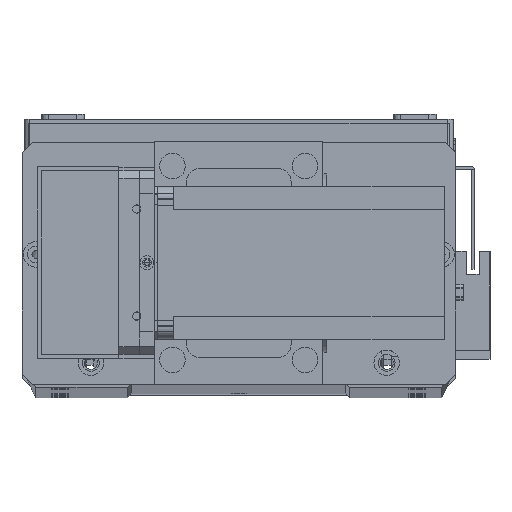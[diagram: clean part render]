
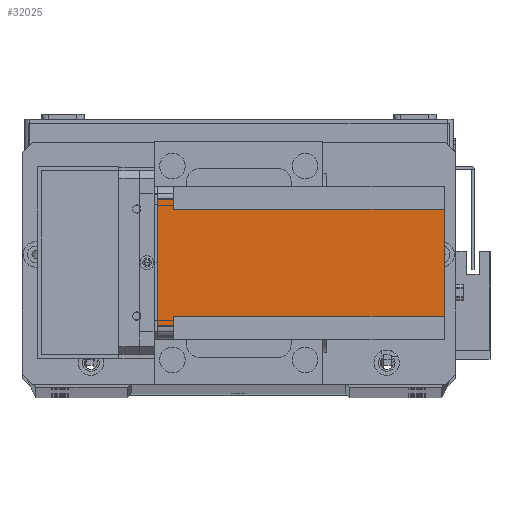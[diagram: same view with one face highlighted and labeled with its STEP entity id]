
A CAD part, top view. The second image highlights one B-rep face of the part: STEP entity #32025.
In plain terms, the highlighted planar face has unit normal (0, 0, 1) as drawn and (-1, 0, 0) by its records, which use the part's own axes.
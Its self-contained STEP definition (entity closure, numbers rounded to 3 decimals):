
#642 = CARTESIAN_POINT ( 'NONE',  ( 0., 60., -6.5 ) ) ;
#1334 = VERTEX_POINT ( 'NONE', #12971 ) ;
#1818 = PLANE ( 'NONE',  #24522 ) ;
#2005 = EDGE_CURVE ( 'NONE', #10046, #20925, #12604, .T. ) ;
#2357 = CARTESIAN_POINT ( 'NONE',  ( 0., 55., -6.5 ) ) ;
#2707 = EDGE_CURVE ( 'NONE', #12142, #10046, #28305, .T. ) ;
#2818 = VERTEX_POINT ( 'NONE', #22398 ) ;
#3104 = VECTOR ( 'NONE', #32806, 1000. ) ;
#4364 = CARTESIAN_POINT ( 'NONE',  ( 0., 55., -112.5 ) ) ;
#4415 = VECTOR ( 'NONE', #4606, 1000. ) ;
#4606 = DIRECTION ( 'NONE',  ( 0., -1., 0. ) ) ;
#5155 = VERTEX_POINT ( 'NONE', #12954 ) ;
#6198 = EDGE_CURVE ( 'NONE', #5155, #19386, #27165, .T. ) ;
#6306 = DIRECTION ( 'NONE',  ( 0., 0., 1. ) ) ;
#6508 = EDGE_CURVE ( 'NONE', #24752, #2818, #25123, .T. ) ;
#7043 = CARTESIAN_POINT ( 'NONE',  ( 0., 0., -112.5 ) ) ;
#7165 = DIRECTION ( 'NONE',  ( 0., -1., 0. ) ) ;
#7318 = VECTOR ( 'NONE', #21678, 1000. ) ;
#7853 = LINE ( 'NONE', #31100, #14740 ) ;
#8302 = EDGE_CURVE ( 'NONE', #24752, #20925, #25416, .T. ) ;
#10046 = VERTEX_POINT ( 'NONE', #30883 ) ;
#10194 = DIRECTION ( 'NONE',  ( 0., 0., 1. ) ) ;
#11651 = EDGE_LOOP ( 'NONE', ( #29471, #23669, #32684, #16178, #17214, #20572, #19914, #18413 ) ) ;
#12142 = VERTEX_POINT ( 'NONE', #31496 ) ;
#12604 = LINE ( 'NONE', #642, #32412 ) ;
#12954 = CARTESIAN_POINT ( 'NONE',  ( 0., 9., -6.5 ) ) ;
#12971 = CARTESIAN_POINT ( 'NONE',  ( 0., 5., -6.5 ) ) ;
#13052 = DIRECTION ( 'NONE',  ( 0., -1., 0. ) ) ;
#13073 = FACE_OUTER_BOUND ( 'NONE', #11651, .T. ) ;
#14010 = CARTESIAN_POINT ( 'NONE',  ( 0., 51., -112.5 ) ) ;
#14295 = CARTESIAN_POINT ( 'NONE',  ( 0., 9., -112.5 ) ) ;
#14740 = VECTOR ( 'NONE', #13052, 1000. ) ;
#15099 = CARTESIAN_POINT ( 'NONE',  ( 0., 0., 0. ) ) ;
#16178 = ORIENTED_EDGE ( 'NONE', *, *, #8302, .T. ) ;
#17214 = ORIENTED_EDGE ( 'NONE', *, *, #2005, .F. ) ;
#17679 = EDGE_CURVE ( 'NONE', #12142, #19386, #7853, .T. ) ;
#17988 = LINE ( 'NONE', #26650, #23245 ) ;
#18413 = ORIENTED_EDGE ( 'NONE', *, *, #6198, .F. ) ;
#19386 = VERTEX_POINT ( 'NONE', #14295 ) ;
#19637 = EDGE_CURVE ( 'NONE', #1334, #2818, #29996, .T. ) ;
#19914 = ORIENTED_EDGE ( 'NONE', *, *, #17679, .T. ) ;
#20572 = ORIENTED_EDGE ( 'NONE', *, *, #2707, .F. ) ;
#20654 = VECTOR ( 'NONE', #6306, 1000. ) ;
#20925 = VERTEX_POINT ( 'NONE', #2357 ) ;
#21678 = DIRECTION ( 'NONE',  ( 0., 0., -1. ) ) ;
#22398 = CARTESIAN_POINT ( 'NONE',  ( 0., 5., 0. ) ) ;
#22708 = DIRECTION ( 'NONE',  ( -1., 0., 0. ) ) ;
#23245 = VECTOR ( 'NONE', #23965, 1000. ) ;
#23669 = ORIENTED_EDGE ( 'NONE', *, *, #19637, .T. ) ;
#23965 = DIRECTION ( 'NONE',  ( 0., 1., 0. ) ) ;
#24522 = AXIS2_PLACEMENT_3D ( 'NONE', #7043, #22708, #7165 ) ;
#24752 = VERTEX_POINT ( 'NONE', #28234 ) ;
#25123 = LINE ( 'NONE', #15099, #4415 ) ;
#25416 = LINE ( 'NONE', #4364, #3104 ) ;
#26466 = DIRECTION ( 'NONE',  ( 0., 1., 0. ) ) ;
#26650 = CARTESIAN_POINT ( 'NONE',  ( 0., 0., -6.5 ) ) ;
#26758 = CARTESIAN_POINT ( 'NONE',  ( 0., 9., -112.5 ) ) ;
#27165 = LINE ( 'NONE', #26758, #7318 ) ;
#27597 = EDGE_CURVE ( 'NONE', #1334, #5155, #17988, .T. ) ;
#28234 = CARTESIAN_POINT ( 'NONE',  ( 0., 55., 0. ) ) ;
#28305 = LINE ( 'NONE', #14010, #20654 ) ;
#28372 = VECTOR ( 'NONE', #10194, 1000. ) ;
#29471 = ORIENTED_EDGE ( 'NONE', *, *, #27597, .F. ) ;
#29996 = LINE ( 'NONE', #33453, #28372 ) ;
#30883 = CARTESIAN_POINT ( 'NONE',  ( 0., 51., -6.5 ) ) ;
#31100 = CARTESIAN_POINT ( 'NONE',  ( 0., 0., -112.5 ) ) ;
#31496 = CARTESIAN_POINT ( 'NONE',  ( 0., 51., -112.5 ) ) ;
#32025 = ADVANCED_FACE ( 'NONE', ( #13073 ), #1818, .T. ) ;
#32412 = VECTOR ( 'NONE', #26466, 1000. ) ;
#32684 = ORIENTED_EDGE ( 'NONE', *, *, #6508, .F. ) ;
#32806 = DIRECTION ( 'NONE',  ( 0., 0., -1. ) ) ;
#33453 = CARTESIAN_POINT ( 'NONE',  ( 0., 5., -112.5 ) ) ;
